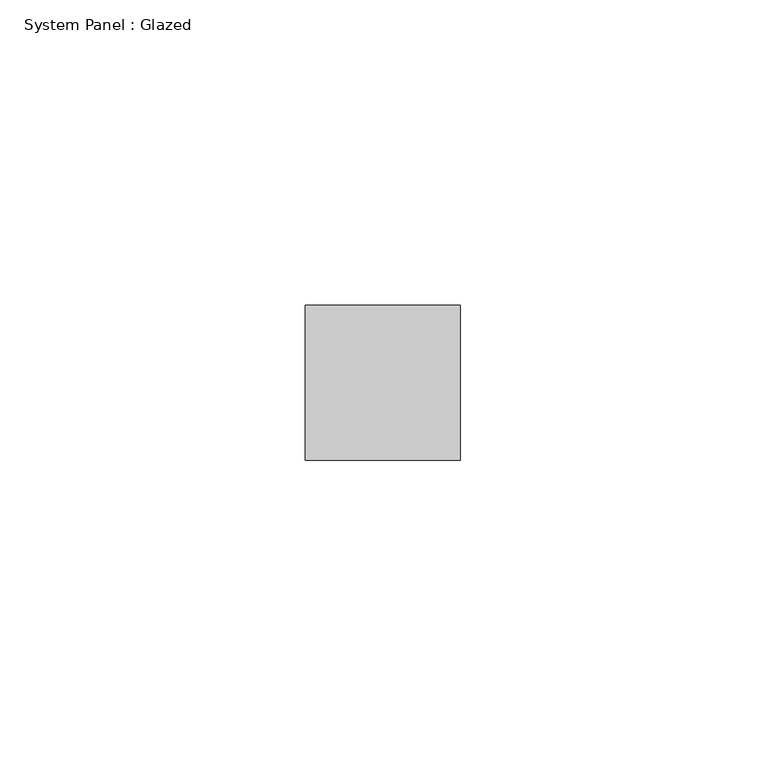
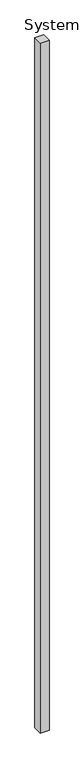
"""IFC4 building model written with IfcOpenShell, lengths in millimetres: plate geometry, System Panel : Glazed."""

from ifc_helpers import new_model, si_unit, origin, origin_with_axes, place, context, project, spatial, polyline, outline, extrude, source, transform, mapped, element, save


def system_panel_glazed_119c605a(model_context):
    return source(origin(), model_context, "Body", "SweptSolid", [
        extrude(outline(polyline([(12.6999998, -44.45), (-12.6999998, -44.45), (-12.6999998, -19.05), (12.6999998, -19.05), (12.6999998, -44.45)])), origin_with_axes(), (0.0, 0.0, 1.0), 2070.1),
    ])


if __name__ == "__main__":
    model = new_model("IFC4")
    model_context = context("Model", 3, world=origin())
    ifc_project = project(units=[si_unit("LENGTHUNIT", "METRE", prefix="MILLI")], contexts=[model_context])
    site = spatial("IfcSite", under=ifc_project)
    building = spatial("IfcBuilding", under=site)
    placement = place(None, origin())
    system_panel_glazed_shape = system_panel_glazed_119c605a(model_context)
    element("IfcPlate", 1, ObjectType="System Panel : Glazed", at=placement, inside=building, context=model_context, shape_type="MappedRepresentation", body=[
        mapped(system_panel_glazed_shape, transform((0.0, 0.0, 0.0), x_axis=(1.0, 0.0, 0.0), y_axis=(0.0, 1.0, 0.0), z_axis=(0.0, 0.0, 1.0))),
    ])
    save(model, "model.ifc")
